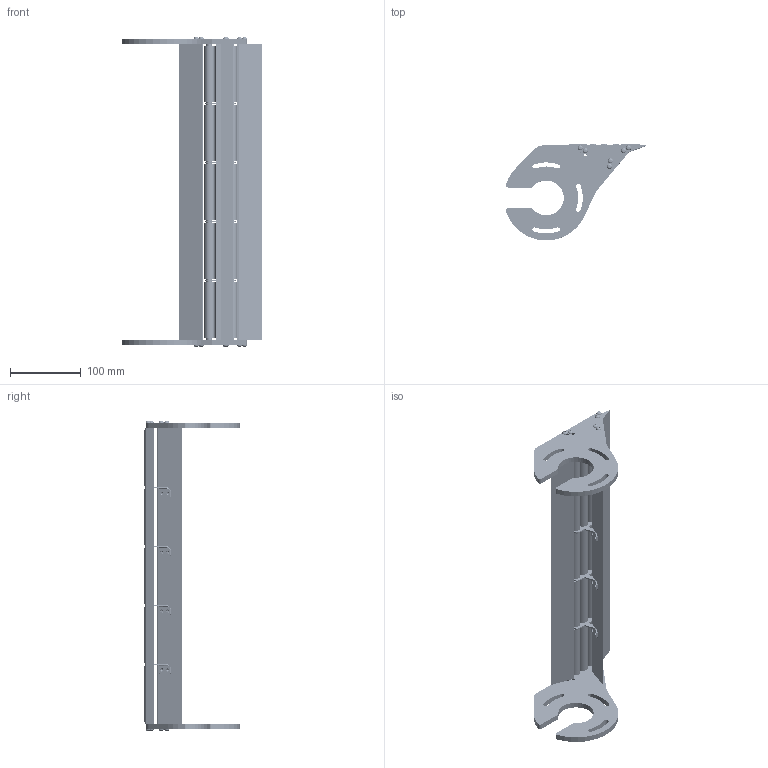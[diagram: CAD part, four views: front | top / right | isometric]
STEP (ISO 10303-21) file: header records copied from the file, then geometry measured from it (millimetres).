
FILE_DESCRIPTION (( 'STEP AP214' ), '1' );
FILE_NAME ('F2 1500 TGRI 2M.STEP', '2024-02-26T14:53:16', ( '' ), ( '' ), 'SwSTEP 2.0', 'SolidWorks 2022', '' );
FILE_SCHEMA (( 'AUTOMOTIVE_DESIGN' ));
Length unit declared in the file: millimetre
Products named in the file (15): PSTI F2 2M Symétrie; AXE TGRI F2 1500; Galet + roulement F2 1500; ROULEMENT TGRI CAB-F2-R-HEF; TBHC 4X16; PT-F2 - F2-1500; ENTRETOISE TGRI CAB-F2-R-HEF; Insert M4 TB; ENTRETOISE SA TGRI; PSTI F2 2M; GR F2 1500; SA TGRI; F2 1500 TGRI 2M; SA TGRI + ENTRETOISE; PT-F2 - F2-1500 percé
Assembly tree (60 placements, depth 3):
  F2 1500 TGRI 2M
    PSTI F2 2M Symétrie
    PSTI F2 2M
    PT-F2 - F2-1500  x2
    PT-F2 - F2-1500 percé
    AXE TGRI F2 1500  x3
    ENTRETOISE TGRI CAB-F2-R-HEF  x6
    Galet + roulement F2 1500  x15
      GR F2 1500
      ROULEMENT TGRI CAB-F2-R-HEF
    SA TGRI + ENTRETOISE  x4
      SA TGRI
      ENTRETOISE SA TGRI
    TBHC 4X16  x12
    Insert M4 TB  x8
Bounding box: 198.67 x 136.6 x 438.78 mm (x, y, z)
Volume: 711781.4 mm3; surface area: 320230.8 mm2
Topology: 95 solids, 95 shells, 3649 faces, 8003 edges, 4658 vertices
Faces by surface type: cone 1560, cylinder 1026, plane 555, torus 436, sphere 52, bspline 20
Entity records: 19168 total; most frequent: CARTESIAN_POINT 3504, DIRECTION 3403, ORIENTED_EDGE 2796, EDGE_CURVE 1398, AXIS2_PLACEMENT_3D 1385, VERTEX_POINT 847, CIRCLE 727, EDGE_LOOP 667
